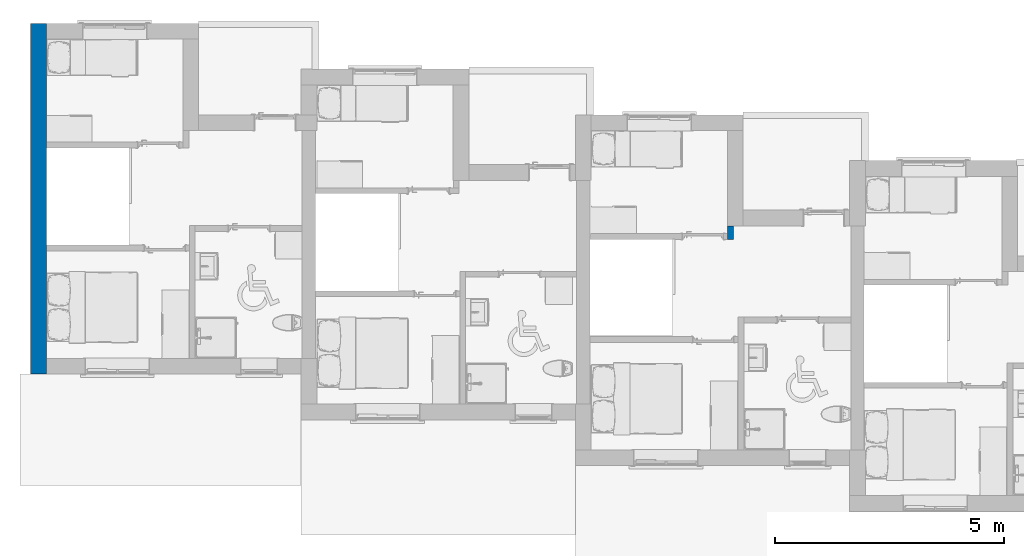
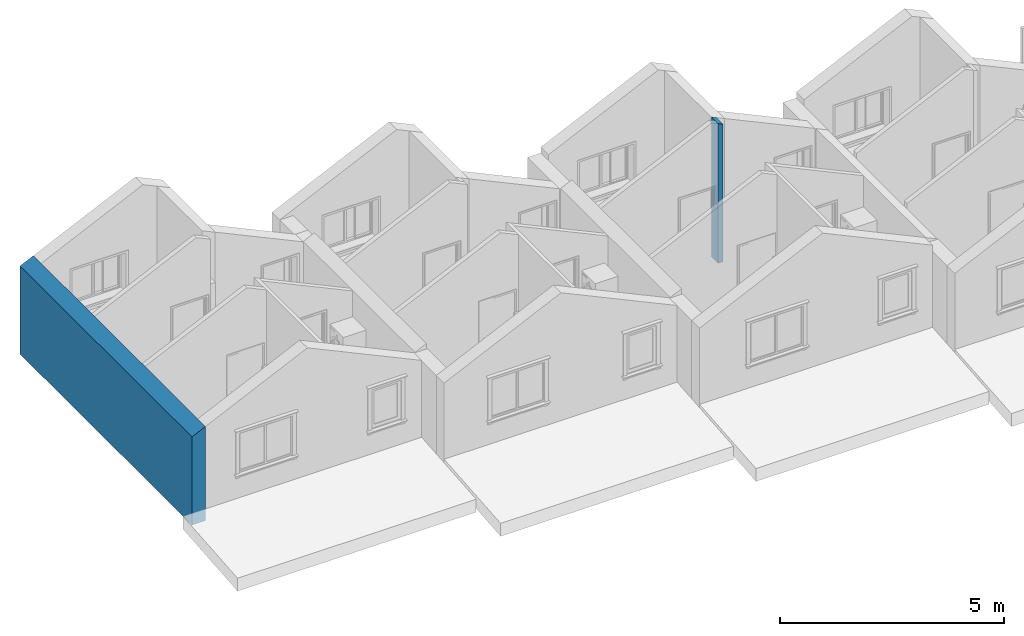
# One storey, part 14 of 44: 2 walls.
"""IFC2X3 building model written with IfcOpenShell, lengths in millimetres."""

from ifc_helpers import new_model, entity, si_unit, converted_unit, direction, frame, frame_2d, origin, place, context, subcontext, project, spatial, polyline, rectangle, extrude, clip, bounded_halfspace, material, layer, layer_set, layer_usage, type_object, element, save


model = new_model("IFC2X3")

# Units and contexts
model_context = context("Model", 3, precision=0.01, world=origin(), true_north=direction((0.0, 1.0)))
body_context = subcontext(model_context, "Body", "Model", "MODEL_VIEW")
ifc_project = project(units=[si_unit("LENGTHUNIT", "METRE", prefix="MILLI"), si_unit("AREAUNIT", "SQUARE_METRE"), si_unit("VOLUMEUNIT", "CUBIC_METRE"), converted_unit("PLANEANGLEUNIT", "DEGREE", entity("IfcPlaneAngleMeasure", 0.017453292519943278), si_unit("PLANEANGLEUNIT", "RADIAN"), dimensions=[0, 0, 0, 0, 0, 0, 0])], contexts=[model_context])

# Site, building, storey
site_placement = place(None, origin())
site = spatial("IfcSite", under=ifc_project, at=site_placement, Name="Default", CompositionType="ELEMENT")
building_placement = place(site_placement, origin())
building = spatial("IfcBuilding", under=site, at=building_placement, CompositionType="ELEMENT")
storey_placement = place(building_placement, frame((0.0, 0.0, 2681.0)))
storey = spatial("IfcBuildingStorey", under=building, at=storey_placement, Name="Et. 2", CompositionType="ELEMENT", Elevation=2681.0)

# Walls
ifc_material_1 = material(Name="Vegg - Stående Kledning_smal - HVIT")
ifc_layer_1 = layer(ifc_material_1, 19.0)
ifc_material_2 = material(Name="Vegg - Utlekting")
ifc_layer_2 = layer(ifc_material_2, 36.0)
ifc_layer_3 = layer(ifc_material_2, 23.0)
ifc_material_3 = material(Name="Vegg - Gips - GU")
ifc_layer_4 = layer(ifc_material_3, 9.0)
ifc_material_4 = material(Name="Vegg - Stender - Isolert")
ifc_layer_5 = layer(ifc_material_4, 198.0)
ifc_material_5 = material(Name="Vegg - Påforing - Isolert")
ifc_layer_6 = layer(ifc_material_5, 48.0)
ifc_material_6 = material(Name="Vegg - Gips - Hvit")
ifc_layer_7 = layer(ifc_material_6, 13.000000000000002)
ifc_layer_set_1 = layer_set([ifc_layer_1, ifc_layer_2, ifc_layer_3, ifc_layer_4, ifc_layer_5, ifc_layer_6, ifc_layer_7], Name="Basic Wall:23-Kv(sm)TIG-19_36_23_9_198_48_13")
ifc_layer_usage_1 = layer_usage(ifc_layer_set_1, "AXIS2", "NEGATIVE", 173.0)
wall_type_1 = type_object("IfcWallType", Name="Basic Wall:23-Kv(sm)TIG-19_36_23_9_198_48_13", PredefinedType="STANDARD", material=ifc_layer_set_1)
wall_1_placement = place(storey_placement, frame((10264.0095867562, 11408.180957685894, 0.0), z_axis=(0.0, 0.0, 1.0), x_axis=(0.0, 1.0, 0.0)))
element("IfcWallStandardCase", 1, at=wall_1_placement, inside=storey, type_object=wall_type_1, material=ifc_layer_usage_1, Name="Basic Wall:23-Kv(sm)TIG-19_36_23_9_198_48_13", context=body_context, shape_type="Clipping", body=[
    clip(extrude(rectangle(XDim=7674.000000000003, YDim=345.9999999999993, at=frame_2d((3837.0000000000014, 5.258016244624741e-13), x_axis=(-1.0, 0.0))), origin(), (0.0, 0.0, 1.0), 2561.3424497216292), bounded_halfspace(frame((0.0, -173.0, 2561.3424497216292), z_axis=(0.0, 0.42261826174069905, 0.9063077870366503), x_axis=(-1.0, 0.0, 0.0)), False, frame((0.0, -173.0, 2561.3424497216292)), polyline([(0.0, 0.0), (346.0, 0.0), (2697.8777614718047, 0.0), (2823.8777614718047, 0.0), (4948.0, 0.0), (5074.0, 0.0), (7328.0, 0.0), (7674.0, 0.0), (7674.0, 346.0), (0.0, 346.0), (0.0, 0.0)]))),
])
ifc_material_7 = material(Name="Vegg - Gips - Innvendig - Hvit")
ifc_layer_8 = layer(ifc_material_7, 13.000000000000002)
ifc_material_8 = material(Name="Vegg - Stender - Stål - Isolert")
ifc_layer_9 = layer(ifc_material_8, 100.0)
ifc_layer_10 = layer(ifc_material_7, 13.000000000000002)
ifc_layer_set_2 = layer_set([ifc_layer_8, ifc_layer_9, ifc_layer_10], Name="Basic Wall:24-GSIG-13_100_13")
ifc_layer_usage_2 = layer_usage(ifc_layer_set_2, "AXIS2", "POSITIVE", -63.00000000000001)
wall_type_2 = type_object("IfcWallType", Name="Basic Wall:24-GSIG-13_100_13", PredefinedType="STANDARD", material=ifc_layer_set_2)
wall_2_placement = place(storey_placement, frame((25401.00958675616, 14356.180957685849, 0.0), z_axis=(0.0, 0.0, 1.0), x_axis=(0.0, 1.0, 0.0)))
element("IfcWallStandardCase", 2, at=wall_2_placement, inside=storey, type_object=wall_type_2, material=ifc_layer_usage_2, Name="Basic Wall:24-GSIG-13_100_13", context=body_context, shape_type="Clipping", body=[
    clip(extrude(rectangle(XDim=292.99999999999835, YDim=125.99999999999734, at=frame_2d((146.49999999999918, 0.0), x_axis=(-1.0, 0.0))), origin(), (0.0, 0.0, 1.0), 3804.9849740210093), bounded_halfspace(frame((0.0, -63.0, 3746.230209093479), z_axis=(0.0, -0.42261826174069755, 0.9063077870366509), x_axis=(1.0, 0.0, 0.0)), False, frame((0.0, -63.0, 3746.230209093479)), polyline([(0.0, 0.0), (293.0, 0.0), (293.0, 126.0), (126.0, 126.0), (0.0, 126.0), (0.0, 0.0)]))),
])

save(model, "model.ifc")
